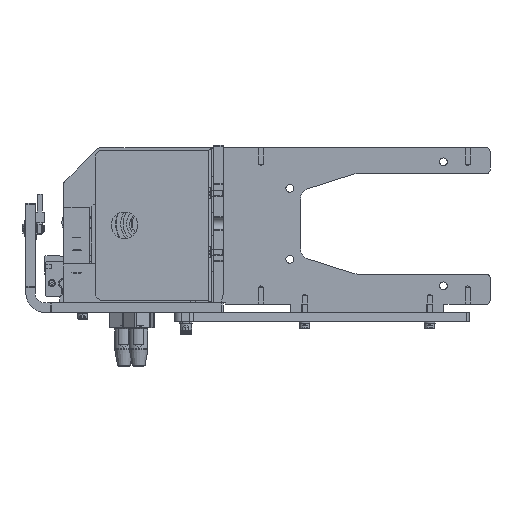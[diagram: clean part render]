
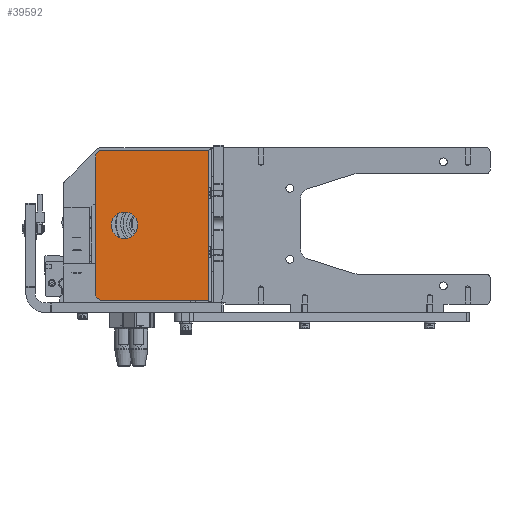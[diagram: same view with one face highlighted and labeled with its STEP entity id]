
A CAD part, left-side view. The second image highlights one B-rep face of the part: STEP entity #39592.
In plain terms, the highlighted planar face has unit normal (-1, 0, 0) as drawn and (1, 0, 0) by its records, which use the part's own axes.
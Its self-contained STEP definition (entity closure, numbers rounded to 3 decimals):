
#2965=CIRCLE('',#42885,6.);
#2966=CIRCLE('',#42887,6.);
#2967=CIRCLE('',#42888,11.25);
#3966=FACE_BOUND('',#10288,.T.);
#5077=PLANE('',#42886);
#7190=FACE_OUTER_BOUND('',#10287,.T.);
#10287=EDGE_LOOP('',(#35025,#35026,#35027,#35028,#35029,#35030));
#10288=EDGE_LOOP('',(#35031));
#13170=LINE('',#68399,#16386);
#13171=LINE('',#68403,#16387);
#13172=LINE('',#68405,#16388);
#13173=LINE('',#68406,#16389);
#16386=VECTOR('',#51906,115.5);
#16387=VECTOR('',#51909,90.);
#16388=VECTOR('',#51910,127.5);
#16389=VECTOR('',#51911,90.);
#20587=VERTEX_POINT('',#68392);
#20588=VERTEX_POINT('',#68394);
#20589=VERTEX_POINT('',#68398);
#20590=VERTEX_POINT('',#68400);
#20591=VERTEX_POINT('',#68402);
#20592=VERTEX_POINT('',#68404);
#20593=VERTEX_POINT('',#68407);
#25479=EDGE_CURVE('',#20587,#20588,#2965,.T.);
#25481=EDGE_CURVE('',#20587,#20589,#13170,.T.);
#25482=EDGE_CURVE('',#20590,#20589,#2966,.T.);
#25483=EDGE_CURVE('',#20591,#20590,#13171,.T.);
#25484=EDGE_CURVE('',#20591,#20592,#13172,.T.);
#25485=EDGE_CURVE('',#20592,#20588,#13173,.T.);
#25486=EDGE_CURVE('',#20593,#20593,#2967,.T.);
#35025=ORIENTED_EDGE('',*,*,#25479,.F.);
#35026=ORIENTED_EDGE('',*,*,#25481,.T.);
#35027=ORIENTED_EDGE('',*,*,#25482,.F.);
#35028=ORIENTED_EDGE('',*,*,#25483,.F.);
#35029=ORIENTED_EDGE('',*,*,#25484,.T.);
#35030=ORIENTED_EDGE('',*,*,#25485,.T.);
#35031=ORIENTED_EDGE('',*,*,#25486,.T.);
#39592=ADVANCED_FACE('',(#7190,#3966),#5077,.T.);
#42885=AXIS2_PLACEMENT_3D('',#68395,#51901,#51902);
#42886=AXIS2_PLACEMENT_3D('',#68397,#51904,#51905);
#42887=AXIS2_PLACEMENT_3D('',#68401,#51907,#51908);
#42888=AXIS2_PLACEMENT_3D('',#68408,#51912,#51913);
#51901=DIRECTION('center_axis',(-1.,0.,0.));
#51902=DIRECTION('ref_axis',(0.,-0.707,-0.707));
#51904=DIRECTION('center_axis',(1.,0.,0.));
#51905=DIRECTION('ref_axis',(0.,0.,-1.));
#51906=DIRECTION('',(0.,1.,0.));
#51907=DIRECTION('center_axis',(-1.,0.,0.));
#51908=DIRECTION('ref_axis',(0.,0.707,-0.707));
#51909=DIRECTION('',(0.,0.,-1.));
#51910=DIRECTION('',(0.,-1.,0.));
#51911=DIRECTION('',(0.,0.,-1.));
#51912=DIRECTION('center_axis',(-1.,0.,0.));
#51913=DIRECTION('ref_axis',(0.,0.,
-1.));
#68392=CARTESIAN_POINT('',(-1.,9.,-100.));
#68394=CARTESIAN_POINT('',(-1.,3.,-94.));
#68395=CARTESIAN_POINT('Origin',(-1.,9.,-94.));
#68397=CARTESIAN_POINT('Origin',(-1.,66.75,-49.214));
#68398=CARTESIAN_POINT('',(-1.,124.5,-100.));
#68399=CARTESIAN_POINT('',(-1.,3.,-100.));
#68400=CARTESIAN_POINT('',(-1.,130.5,-94.));
#68401=CARTESIAN_POINT('Origin',(-1.,124.5,-94.));
#68402=CARTESIAN_POINT('',(-1.,130.5,-4.));
#68403=CARTESIAN_POINT('',(-1.,130.5,-4.));
#68404=CARTESIAN_POINT('',(-1.,3.,-4.));
#68405=CARTESIAN_POINT('',(-1.,66.75,-4.));
#68406=CARTESIAN_POINT('',(-1.,3.,-4.));
#68407=CARTESIAN_POINT('',(-1.,66.75,-86.75));
#68408=CARTESIAN_POINT('Origin',(-1.,66.75,-75.5));
